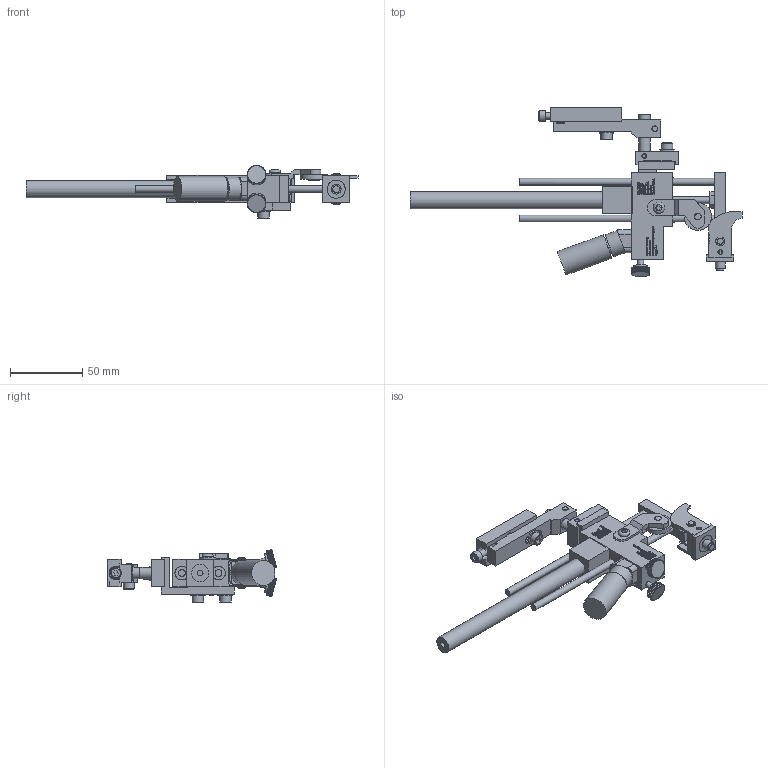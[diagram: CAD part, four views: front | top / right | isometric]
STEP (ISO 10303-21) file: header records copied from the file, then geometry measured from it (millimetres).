
FILE_DESCRIPTION((''),'2;1');
FILE_NAME('C:\Documents and Settings\Ron\My Documents\Inventor\Sprinter Drawing\Machines in Inventor\Model 44\Dot\3-sixteenth\Ext Str\E2\Brkt\90\Model 44 E2 .187 dia dot 90 Deg w brkt.stp','2009-01-23T09:32:10',('Ron'),(''),'Autodesk Inventor 2008','Autodesk Inventor 2008','');
FILE_SCHEMA(('AUTOMOTIVE_DESIGN { 1 0 10303 214 1 1 1 1 }'));
Length unit declared in the file: inch
Products named in the file (1): Model 44 E2 .187 dia dot 90 Deg w brkt
Bounding box: 230.15 x 117.12 x 36.82 mm (x, y, z)
Volume: 111263.5 mm3; surface area: 53882.4 mm2
Topology: 382 solids, 382 shells, 6213 faces, 15431 edges, 9547 vertices
Faces by surface type: plane 4367, bspline 1319, cylinder 473, cone 48, torus 6
Full cylindrical faces by diameter (mm): 3.175 x4, 3.302 x1, 3.962 x1, 4.064 x6, 4.166 x1, 4.699 x1, 4.75 x5, 4.775 x1, 4.826 x7, 5.144 x1, 5.156 x5, 5.207 x2, 5.41 x2, 6.096 x1, 6.274 x2, 6.68 x1, 7.239 x1, 7.62 x1, 7.925 x7, 7.938 x1, 8.128 x1, 9.017 x1, 9.525 x2, 10.312 x4, 10.922 x1, 11.036 x1, 11.938 x2, 12.522 x1, 14.478 x1, 16.256 x1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
Entity records: 197961 total; most frequent: CARTESIAN_POINT 54158, ORIENTED_EDGE 30420, DIRECTION 23659, EDGE_CURVE 15210, VECTOR 11405, LINE 11405, VERTEX_POINT 9483, EDGE_LOOP 6777
